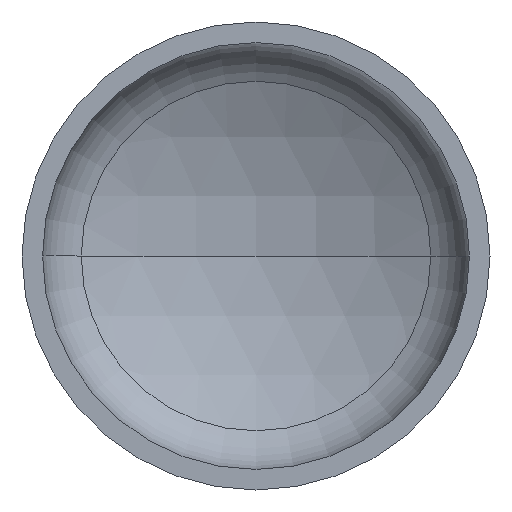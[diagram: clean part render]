
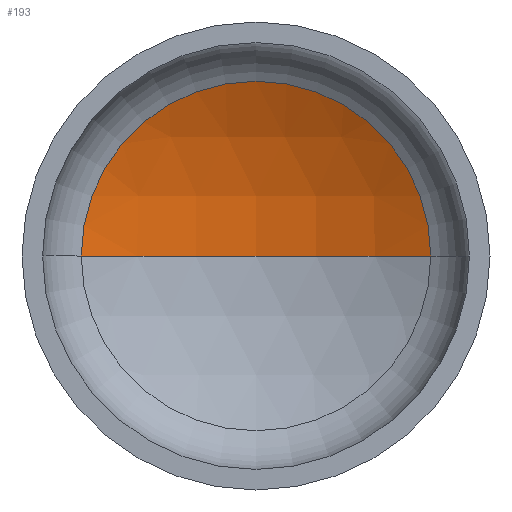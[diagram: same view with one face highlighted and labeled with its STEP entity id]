
A CAD part, front view. The second image highlights one B-rep face of the part: STEP entity #193.
In plain terms, the highlighted spherical face has radius 800 mm.
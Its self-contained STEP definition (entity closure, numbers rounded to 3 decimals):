
#2 = DIRECTION ( 'NONE',  ( 0., 0., -1. ) ) ;
#7 = CARTESIAN_POINT ( 'NONE',  ( 0., -430.459, 0. ) ) ;
#9 = ORIENTED_EDGE ( 'NONE', *, *, #392, .T. ) ;
#11 = EDGE_LOOP ( 'NONE', ( #100, #9, #87 ) ) ;
#28 = DIRECTION ( 'NONE',  ( 0., 0., -1. ) ) ;
#72 = VERTEX_POINT ( 'NONE', #233 ) ;
#76 = AXIS2_PLACEMENT_3D ( 'NONE', #7, #2, #318 ) ;
#83 = CARTESIAN_POINT ( 'NONE',  ( 0., -430.459, 0. ) ) ;
#87 = ORIENTED_EDGE ( 'NONE', *, *, #94, .T. ) ;
#94 = EDGE_CURVE ( 'NONE', #72, #163, #282, .T. ) ;
#100 = ORIENTED_EDGE ( 'NONE', *, *, #381, .F. ) ;
#110 = DIRECTION ( 'NONE',  ( 0., 0., 1. ) ) ;
#113 = SPHERICAL_SURFACE ( 'NONE', #76, 800. ) ;
#133 = CIRCLE ( 'NONE', #384, 800. ) ;
#163 = VERTEX_POINT ( 'NONE', #182 ) ;
#182 = CARTESIAN_POINT ( 'NONE',  ( -373.333, 277.087, 0. ) ) ;
#184 = FACE_OUTER_BOUND ( 'NONE', #11, .T. ) ;
#193 = ADVANCED_FACE ( 'NONE', ( #184 ), #113, .F. ) ;
#221 = DIRECTION ( 'NONE',  ( 1., 0., 0. ) ) ;
#224 = VERTEX_POINT ( 'NONE', #238 ) ;
#233 = CARTESIAN_POINT ( 'NONE',  ( 373.333, 277.087, 0. ) ) ;
#238 = CARTESIAN_POINT ( 'NONE',  ( 0., 369.541, 0. ) ) ;
#257 = AXIS2_PLACEMENT_3D ( 'NONE', #333, #330, #329 ) ;
#270 = DIRECTION ( 'NONE',  ( -1., 0., 0. ) ) ;
#271 = CARTESIAN_POINT ( 'NONE',  ( 0., -430.459, 0. ) ) ;
#282 = CIRCLE ( 'NONE', #257, 373.333 ) ;
#318 = DIRECTION ( 'NONE',  ( -1., 0., 0. ) ) ;
#329 = DIRECTION ( 'NONE',  ( 1., 0., 0. ) ) ;
#330 = DIRECTION ( 'NONE',  ( 0., -1., 0. ) ) ;
#333 = CARTESIAN_POINT ( 'NONE',  ( 0., 277.087, 0. ) ) ;
#381 = EDGE_CURVE ( 'NONE', #224, #163, #133, .T. ) ;
#384 = AXIS2_PLACEMENT_3D ( 'NONE', #271, #110, #221 ) ;
#392 = EDGE_CURVE ( 'NONE', #224, #72, #403, .T. ) ;
#403 = CIRCLE ( 'NONE', #411, 800. ) ;
#411 = AXIS2_PLACEMENT_3D ( 'NONE', #83, #28, #270 ) ;
